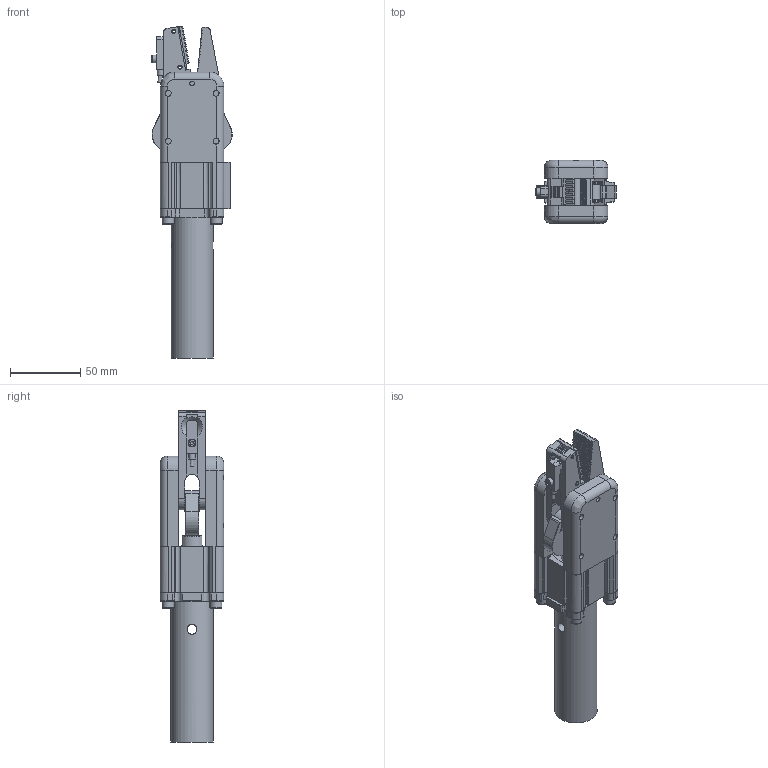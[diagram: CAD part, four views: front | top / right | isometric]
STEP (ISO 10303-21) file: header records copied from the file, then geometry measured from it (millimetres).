
FILE_DESCRIPTION(/* description */ (''),/* implementation_level */ '2;1');
FILE_NAME(/* name */ '8Y00462-GRP32A-CP--30.stp',/* time_stamp */ '2023-02-22T10:57:08+08:00',/* author */ (''),/* organization */ (''),/* preprocessor_version */ 'ST-DEVELOPER v16',/* originating_system */ 'SIEMENS PLM Software NX 10.0',/* authorisation */ '');
FILE_SCHEMA (('AUTOMOTIVE_DESIGN { 1 0 10303 214 3 1 1 1 }'));
Length unit declared in the file: millimetre
Products named in the file (1): _model30
Bounding box: 57.15 x 45 x 235.73 mm (x, y, z)
Volume: 209047.2 mm3; surface area: 86602.1 mm2
Topology: 16 solids, 22 shells, 1433 faces, 3082 edges, 1715 vertices
Faces by surface type: plane 1099, cylinder 204, cone 102, torus 15, bspline 12, sphere 1
Full cylindrical faces by diameter (mm): 2.4 x1, 2.5 x2, 3 x5, 3.1 x1, 3.3 x1, 3.4 x3, 4 x1, 4.1 x1, 4.2 x8, 4.5 x2, 5 x5, 5.2 x4, 5.5 x5, 6 x9, 6.647 x1, 6.8 x1, 7 x3, 8 x5, 8.1 x1, 8.5 x4, 8.566 x2, 8.6 x1, 9 x8, 10 x5, 13 x1, 14 x1, 15 x2, 16 x2, 17 x12, 21 x1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
Entity records: 51359 total; most frequent: CARTESIAN_POINT 11513, DIRECTION 6251, ORIENTED_EDGE 5662, EDGE_CURVE 2831, LINE 2133, VECTOR 2133, AXIS2_PLACEMENT_3D 2059, EDGE_LOOP 1711
